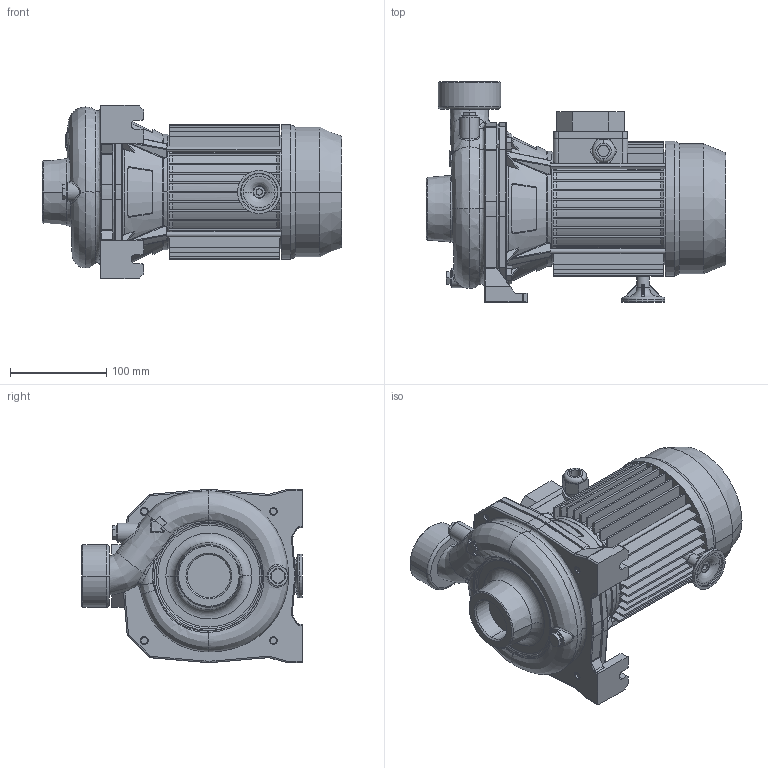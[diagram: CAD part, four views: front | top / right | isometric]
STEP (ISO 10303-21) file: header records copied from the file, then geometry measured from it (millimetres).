
FILE_DESCRIPTION((''),'2;1');
FILE_NAME('CMR_100T_IE2_ASM','2014-09-12T',('Rosa'),('"Ebara Pumps Europe +39.444.706811"'),'PRO/ENGINEER BY PARAMETRIC TECHNOLOGY CORPORATION, 2009360','PRO/ENGINEER BY PARAMETRIC TECHNOLOGY CORPORATION, 2009360','');
FILE_SCHEMA(('AUTOMOTIVE_DESIGN { 1 0 10303 214 1 1 1 1 }'));
Length unit declared in the file: millimetre
Products named in the file (6): MEC_71X90_IE2; 80534; 38001; 20508; 72001; CMR_100T_IE2_ASM
Assembly tree (5 placements, depth 2):
  CMR_100T_IE2_ASM
    MEC_71X90_IE2
    80534
    38001
    20508
    72001
Bounding box: 311.8 x 229 x 180 mm (x, y, z)
Volume: 3594776 mm3; surface area: 535178.1 mm2
Topology: 5 solids, 11 shells, 1092 faces, 2635 edges, 1599 vertices
Faces by surface type: plane 443, cylinder 283, bspline 172, cone 94, torus 63, sphere 37
Entity records: 50478 total; most frequent: CARTESIAN_POINT 16905, ORIENTED_EDGE 5254, DIRECTION 4871, EDGE_CURVE 2635, PRESENTATION_STYLE_ASSIGNMENT 1970, STYLED_ITEM 1970, AXIS2_PLACEMENT_3D 1868, CURVE_STYLE 1798
